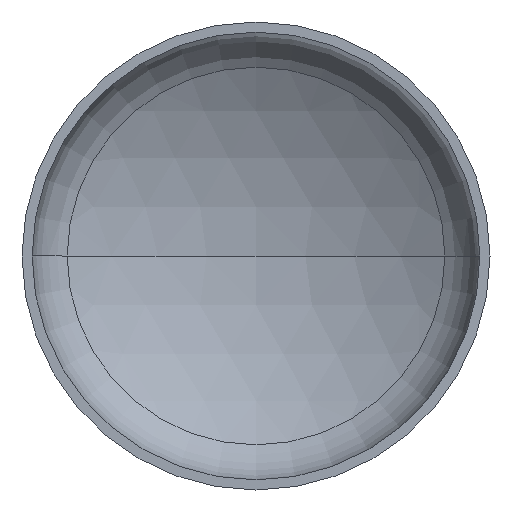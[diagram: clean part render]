
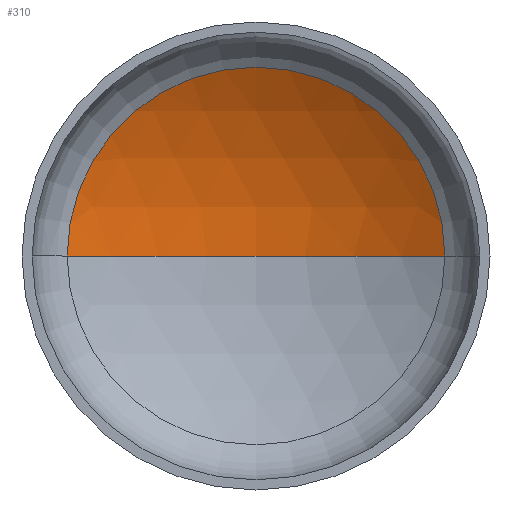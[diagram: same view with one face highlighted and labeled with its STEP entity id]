
A CAD part, front view. The second image highlights one B-rep face of the part: STEP entity #310.
In plain terms, the highlighted spherical face has radius 254 mm.
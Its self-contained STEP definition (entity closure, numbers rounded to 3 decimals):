
#5 = EDGE_LOOP ( 'NONE', ( #66, #56, #19 ) ) ;
#19 = ORIENTED_EDGE ( 'NONE', *, *, #272, .T. ) ;
#23 = VERTEX_POINT ( 'NONE', #235 ) ;
#37 = DIRECTION ( 'NONE',  ( 0., 0., -1. ) ) ;
#48 = CARTESIAN_POINT ( 'NONE',  ( 0., -149.933, 0. ) ) ;
#56 = ORIENTED_EDGE ( 'NONE', *, *, #287, .T. ) ;
#66 = ORIENTED_EDGE ( 'NONE', *, *, #396, .F. ) ;
#69 = DIRECTION ( 'NONE',  ( -1., 0., 0. ) ) ;
#97 = CARTESIAN_POINT ( 'NONE',  ( 0., -149.933, 0. ) ) ;
#105 = VERTEX_POINT ( 'NONE', #309 ) ;
#113 = CIRCLE ( 'NONE', #242, 254. ) ;
#148 = DIRECTION ( 'NONE',  ( 0., 0., -1. ) ) ;
#154 = CIRCLE ( 'NONE', #301, 130.673 ) ;
#214 = CARTESIAN_POINT ( 'NONE',  ( 0., -149.933, 0. ) ) ;
#224 = DIRECTION ( 'NONE',  ( 0., 0., 1. ) ) ;
#235 = CARTESIAN_POINT ( 'NONE',  ( 130.673, 67.876, 0. ) ) ;
#237 = CARTESIAN_POINT ( 'NONE',  ( -130.673, 67.876, 0. ) ) ;
#242 = AXIS2_PLACEMENT_3D ( 'NONE', #97, #224, #397 ) ;
#254 = DIRECTION ( 'NONE',  ( 1., 0., 0. ) ) ;
#255 = DIRECTION ( 'NONE',  ( 0., -1., 0. ) ) ;
#257 = CARTESIAN_POINT ( 'NONE',  ( 0., 67.876, 0. ) ) ;
#272 = EDGE_CURVE ( 'NONE', #23, #278, #154, .T. ) ;
#278 = VERTEX_POINT ( 'NONE', #237 ) ;
#287 = EDGE_CURVE ( 'NONE', #105, #23, #298, .T. ) ;
#288 = FACE_OUTER_BOUND ( 'NONE', #5, .T. ) ;
#298 = CIRCLE ( 'NONE', #336, 254. ) ;
#301 = AXIS2_PLACEMENT_3D ( 'NONE', #257, #255, #254 ) ;
#309 = CARTESIAN_POINT ( 'NONE',  ( 0., 104.067, 0. ) ) ;
#310 = ADVANCED_FACE ( 'NONE', ( #288 ), #411, .F. ) ;
#336 = AXIS2_PLACEMENT_3D ( 'NONE', #48, #37, #69 ) ;
#396 = EDGE_CURVE ( 'NONE', #105, #278, #113, .T. ) ;
#397 = DIRECTION ( 'NONE',  ( 1., 0., 0. ) ) ;
#401 = AXIS2_PLACEMENT_3D ( 'NONE', #214, #148, #406 ) ;
#406 = DIRECTION ( 'NONE',  ( -1., 0., 0. ) ) ;
#411 = SPHERICAL_SURFACE ( 'NONE', #401, 254. ) ;
